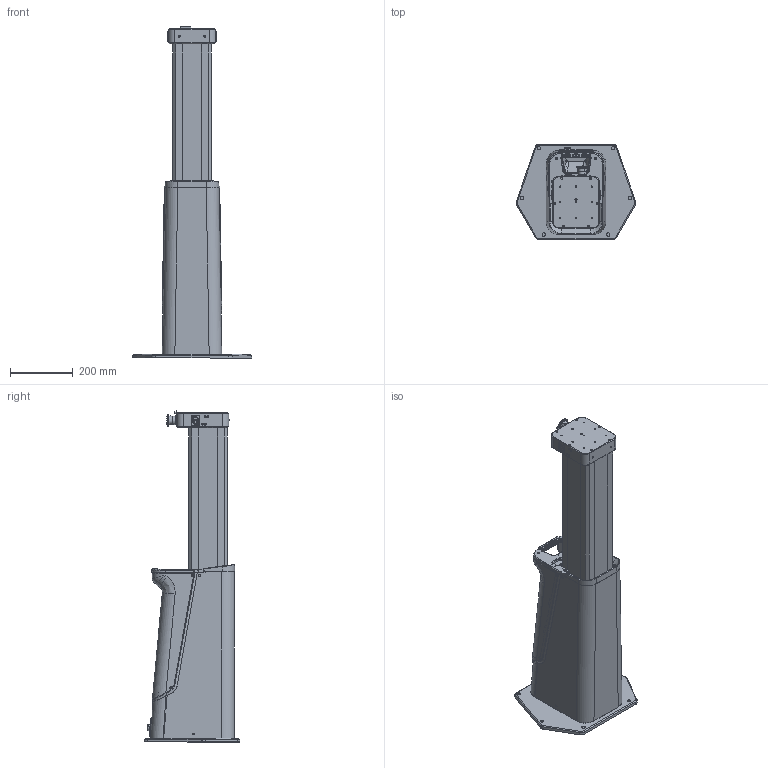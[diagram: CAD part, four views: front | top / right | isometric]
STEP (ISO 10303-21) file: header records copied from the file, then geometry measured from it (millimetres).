
FILE_DESCRIPTION (( 'STEP AP214' ), '1' );
FILE_NAME ('铝方管伸缩升降 最大举升.STEP', '2026-07-30T11:26:30', ( '' ), ( '' ), 'SwSTEP 2.0', 'SolidWorks 2024', '' );
FILE_SCHEMA (( 'AUTOMOTIVE_DESIGN' ));
Length unit declared in the file: millimetre
Products named in the file (3): 伸缩部分; 底座部分; 铝方管伸缩升降 最大举升
Assembly tree (2 placements, depth 2):
  铝方管伸缩升降 最大举升
    底座部分
    伸缩部分
Bounding box: 382 x 306 x 1060.35 mm (x, y, z)
Volume: 25022798.5 mm3; surface area: 1611172.3 mm2
Topology: 15 solids, 37 shells, 3830 faces, 9344 edges, 5736 vertices
Faces by surface type: plane 1671, cylinder 1044, cone 581, bspline 294, torus 192, sphere 48
Entity records: 163989 total; most frequent: CARTESIAN_POINT 52852, ORIENTED_EDGE 18580, DIRECTION 17620, EDGE_CURVE 9290, AXIS2_PLACEMENT_3D 6413, VERTEX_POINT 5736, VECTOR 4794, LINE 4794
